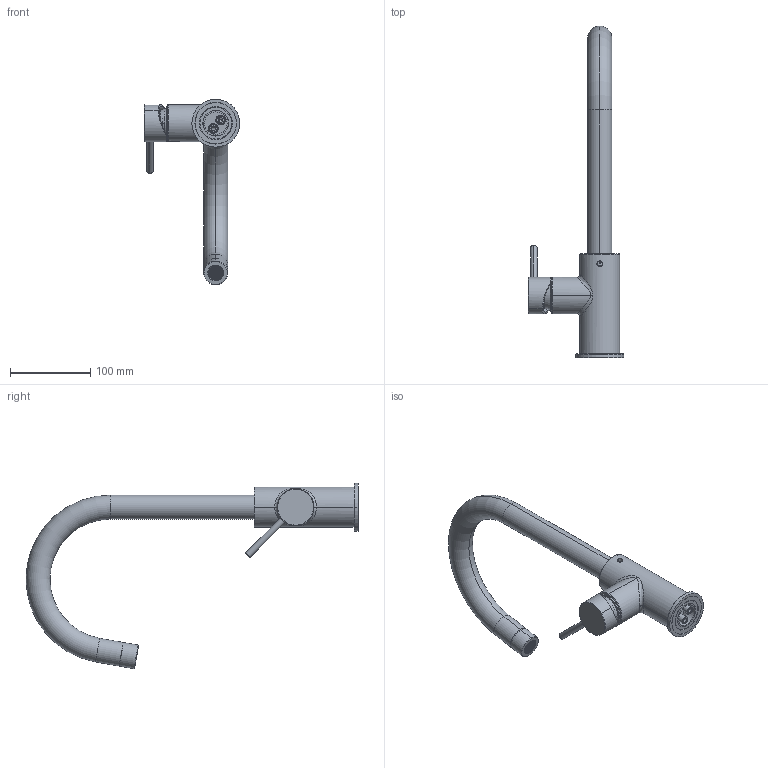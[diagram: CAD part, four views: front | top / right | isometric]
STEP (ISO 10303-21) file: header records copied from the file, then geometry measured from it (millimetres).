
FILE_DESCRIPTION((''),'2;1');
FILE_NAME('45175_SW0002','2026-09-08T16:13:53',('carloff'),(''),'CREO PARAMETRIC BY PTC INC, 2022014','CREO PARAMETRIC BY PTC INC, 2022014','');
FILE_SCHEMA(('CONFIG_CONTROL_DESIGN'));
Length unit declared in the file: millimetre
Products named in the file (1): 45175_SW0002
Bounding box: 119.22 x 415 x 231.81 mm (x, y, z)
Volume: 324717.7 mm3; surface area: 168729.5 mm2
Topology: 2 solids, 2 shells, 2611 faces, 9359 edges, 4949 vertices
Faces by surface type: plane 2175, cylinder 222, cone 98, torus 76, sphere 22, bspline 18
Entity records: 102602 total; most frequent: CARTESIAN_POINT 22598, ORIENTED_EDGE 18682, DIRECTION 15236, EDGE_CURVE 9341, VECTOR 8260, LINE 8260, VERTEX_POINT 4950, AXIS2_PLACEMENT_3D 3488
